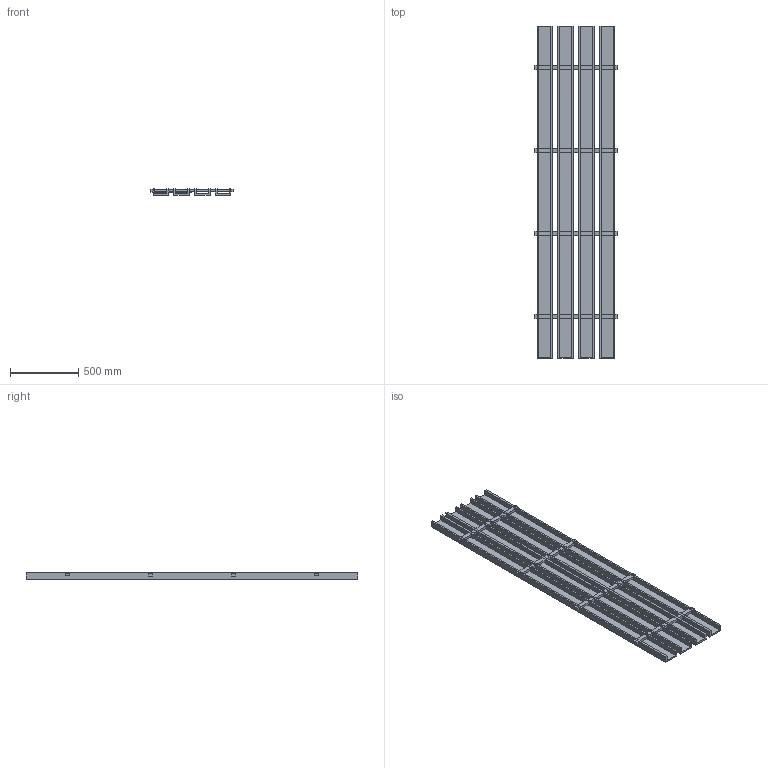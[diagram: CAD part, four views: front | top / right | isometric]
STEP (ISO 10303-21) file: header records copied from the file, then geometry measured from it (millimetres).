
FILE_DESCRIPTION(/* description */ (''),/* implementation_level */ '2;1');
FILE_NAME(/* name */ 'PET GRILLA_4.5x2_8ft',/* time_stamp */ '2024-10-15T14:22:06-05:00',/* author */ (''),/* organization */ (''),/* preprocessor_version */ 'ST-DEVELOPER v19.2',/* originating_system */ 'Rhino 8.4',/* authorisation */ '');
FILE_SCHEMA (('CONFIG_CONTROL_DESIGN'));
Length unit declared in the file: inch
Products named in the file (1): Document
Bounding box: 603.25 x 2438.4 x 50.8 mm (x, y, z)
Volume: 24811039.1 mm3; surface area: 4153217.5 mm2
Topology: 1 solids, 1 shells, 192 faces, 528 edges, 352 vertices
Faces by surface type: plane 192
Entity records: 5440 total; most frequent: CARTESIAN_POINT 1602, ORIENTED_EDGE 1056, EDGE_CURVE 528, B_SPLINE_CURVE_WITH_KNOTS 528, VERTEX_POINT 352, EDGE_LOOP 256, DIRECTION 196, AXIS2_PLACEMENT_3D 194
